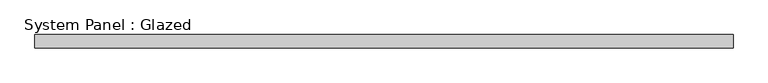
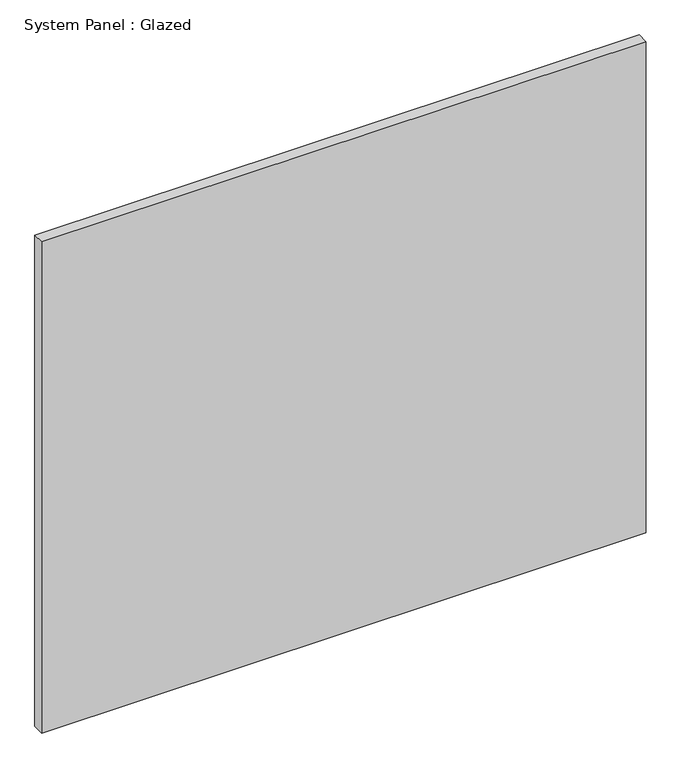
"""IFC4 building model written with IfcOpenShell, lengths in millimetres: plate geometry, System Panel : Glazed."""

import ifcopenshell
import ifcopenshell.guid

model = None  # the IFC model being written
_history = None  # IfcOwnerHistory: only IFC2X3 demands one
_inside = {}  # id of a spatial element -> (the spatial element, [elements in it])
_under = {}  # id of a project, library or spatial element -> (it, [spatial elements below it])
_declared = {}  # id of a project -> (the project, [libraries it declares])
_typed = {}  # id of a type object -> (the type object, [elements of that type])
_made_of = {}  # id of a material, layer set ... -> (it, [elements and type objects made of it])


def new_model(schema):
    """Start an empty IFC model of exactly this schema.

    Asked for "IFC4X3", IfcOpenShell would pick the latest addendum, in which some entities
    have other attributes; the version numbers below select the first issue.
    IFC2X3 requires an IfcOwnerHistory on every rooted entity: one is made here for all.
    """
    global model, _history
    if schema == "IFC4X3":
        model = ifcopenshell.file(schema_version=(4, 3, 0, 0))
    else:
        model = ifcopenshell.file(schema=schema)
    _inside.clear()
    _under.clear()
    _declared.clear()
    _typed.clear()
    _made_of.clear()
    _history = None
    if model.schema == "IFC2X3":
        org = make("IfcOrganization", Name="unknown")
        user = make(
            "IfcPersonAndOrganization",
            ThePerson=make("IfcPerson", FamilyName="unknown"),
            TheOrganization=org,
        )
        app = make(
            "IfcApplication",
            ApplicationDeveloper=org,
            Version="unknown",
            ApplicationFullName="unknown",
            ApplicationIdentifier="unknown",
        )
        _history = make(
            "IfcOwnerHistory",
            OwningUser=user,
            OwningApplication=app,
            ChangeAction="ADDED",
            CreationDate=0,
        )
    return model


def make(cls, **values):
    """One entity of the class cls with the attributes given. An attribute that is None is left unset."""
    return model.create_entity(
        cls, **{name: value for name, value in values.items() if value is not None}
    )


def rooted(cls, **values):
    """An entity with a GlobalId (a new one), such as an element, a storey or a relation."""
    return make(cls, GlobalId=ifcopenshell.guid.new(), OwnerHistory=_history, **values)


def si_unit(unit_type, name, prefix=None):
    """IfcSIUnit, for example si_unit("LENGTHUNIT", "METRE", prefix="MILLI")."""
    return make("IfcSIUnit", UnitType=unit_type, Prefix=prefix, Name=name)


def assignment(units):
    """IfcUnitAssignment: the units of a project."""
    return None if units is None else make("IfcUnitAssignment", Units=units)


def point(xyz):
    """IfcCartesianPoint."""
    return None if xyz is None else make("IfcCartesianPoint", Coordinates=xyz)


def direction(xyz):
    """IfcDirection."""
    return None if xyz is None else make("IfcDirection", DirectionRatios=xyz)


def frame(location, z_axis=None, x_axis=None):
    """IfcAxis2Placement3D, a coordinate frame: its origin and axes. An axis left out is left unset."""
    return make(
        "IfcAxis2Placement3D",
        Location=point(location),
        Axis=direction(z_axis),
        RefDirection=direction(x_axis),
    )


def origin():
    """The frame at (0, 0, 0) with its axes left unset."""
    return frame((0.0, 0.0, 0.0))


def origin_with_axes():
    """The frame at (0, 0, 0) with the z axis (0, 0, 1) and the x axis (1, 0, 0) written out."""
    return frame((0.0, 0.0, 0.0), z_axis=(0.0, 0.0, 1.0), x_axis=(1.0, 0.0, 0.0))


def place(relative_to, where):
    """IfcLocalPlacement: puts the frame where relative to a parent placement (None: the world)."""
    return make(
        "IfcLocalPlacement", PlacementRelTo=relative_to, RelativePlacement=where
    )


def context(
    kind, dimensions, precision=None, world=None, true_north=None, identifier=None
):
    """IfcGeometricRepresentationContext, for example the 3D "Model" context."""
    return make(
        "IfcGeometricRepresentationContext",
        ContextIdentifier=identifier,
        ContextType=kind,
        CoordinateSpaceDimension=dimensions,
        Precision=precision,
        WorldCoordinateSystem=world,
        TrueNorth=true_north,
    )


def project(units=None, contexts=None):
    """IfcProject with its units and contexts."""
    return rooted(
        "IfcProject",
        Name="project",
        RepresentationContexts=contexts,
        UnitsInContext=assignment(units),
    )


def spatial(cls, under=None, at=None, **own):
    """A site, building, storey or space (cls), placed at a placement, below another one or the project."""
    s = rooted(cls, ObjectPlacement=at, **own)
    if under is not None:
        _under.setdefault(under.id(), (under, []))[1].append(s)
    return s


def polyline(points):
    """IfcPolyline through the points."""
    return make("IfcPolyline", Points=[point(p) for p in points])


def outline(outer, holes=None, kind="AREA"):
    """IfcArbitraryClosedProfileDef: a profile drawn as a closed curve; with holes, ...WithVoids."""
    if holes is None:
        return make("IfcArbitraryClosedProfileDef", ProfileType=kind, OuterCurve=outer)
    return make(
        "IfcArbitraryProfileDefWithVoids",
        ProfileType=kind,
        OuterCurve=outer,
        InnerCurves=holes,
    )


def extrude(swept, where, along, depth):
    """IfcExtrudedAreaSolid: the profile swept, set in the frame where, extruded along a direction by depth."""
    return make(
        "IfcExtrudedAreaSolid",
        SweptArea=swept,
        Position=where,
        ExtrudedDirection=direction(along),
        Depth=depth,
    )


def shape(context_of_items, identifier, shape_type, items):
    """IfcShapeRepresentation: the items that make up one representation, for example the "Body"."""
    return make(
        "IfcShapeRepresentation",
        ContextOfItems=context_of_items,
        RepresentationIdentifier=identifier,
        RepresentationType=shape_type,
        Items=items,
    )


def source(mapping_origin, context_of_items, identifier, shape_type, items):
    """IfcRepresentationMap: a shape defined once, which mapped items show again and again."""
    return make(
        "IfcRepresentationMap",
        MappingOrigin=mapping_origin,
        MappedRepresentation=shape(context_of_items, identifier, shape_type, items),
    )


def transform(
    local_origin,
    x_axis=None,
    y_axis=None,
    z_axis=None,
    scale=None,
    scale2=None,
    scale3=None,
    uniform=True,
):
    """IfcCartesianTransformationOperator3D, or its non-uniform kind. x_axis, y_axis, z_axis: its Axis1, 2, 3."""
    if uniform:
        return make(
            "IfcCartesianTransformationOperator3D",
            Axis1=direction(x_axis),
            Axis2=direction(y_axis),
            LocalOrigin=point(local_origin),
            Scale=scale,
            Axis3=direction(z_axis),
        )
    return make(
        "IfcCartesianTransformationOperator3DnonUniform",
        Axis1=direction(x_axis),
        Axis2=direction(y_axis),
        LocalOrigin=point(local_origin),
        Scale=scale,
        Axis3=direction(z_axis),
        Scale2=scale2,
        Scale3=scale3,
    )


def mapped(mapping_source, mapping_target):
    """IfcMappedItem: shows the shape of a source again, moved by a transform."""
    return make(
        "IfcMappedItem", MappingSource=mapping_source, MappingTarget=mapping_target
    )


def made_of(thing, what):
    """Note that an element or type object is made of a material, layer set ...; save() writes the relation."""
    if what is not None:
        _made_of.setdefault(what.id(), (what, []))[1].append(thing)
    return thing


def element(
    cls,
    number,
    at=None,
    inside=None,
    cuts=None,
    type_object=None,
    material=None,
    context=None,
    identifier="Body",
    shape_type=None,
    held_by="IfcProductDefinitionShape",
    body=None,
    shapes=None,
    **own,
):
    """One element of the class cls, such as IfcWall. Its Tag is "e" and its number.

    at: its placement. inside: the storey or other place that contains it. cuts: it is an
    opening in that element (IfcRelVoidsElement). A single representation is given by context,
    identifier, shape_type and body (its items); several are given by shapes. held_by: the class
    of the entity that holds the representations. save() writes the other relations.
    """
    e = rooted(cls, Tag="e%d" % number, ObjectPlacement=at, **own)
    if body is not None:
        shapes = [shape(context, identifier, shape_type, body)]
    if shapes is not None:
        e.Representation = make(held_by, Representations=shapes)
    if inside is not None:
        _inside.setdefault(inside.id(), (inside, []))[1].append(e)
    if cuts is not None:
        rooted(
            "IfcRelVoidsElement", RelatingBuildingElement=cuts, RelatedOpeningElement=e
        )
    if type_object is not None:
        _typed.setdefault(type_object.id(), (type_object, []))[1].append(e)
    return made_of(e, material)


def aggregate(whole, parts):
    """IfcRelAggregates: a whole, such as a stair, and the parts it consists of."""
    return rooted("IfcRelAggregates", RelatingObject=whole, RelatedObjects=parts)


def save(model, path):
    """Write the relations noted so far, then the file.

    IfcRelAggregates (storeys below a building ...), IfcRelContainedInSpatialStructure (elements
    in a storey), IfcRelDefinesByType, IfcRelAssociatesMaterial and IfcRelDeclares: one each for
    every whole, place, type object, material and project.
    """
    for whole, parts in _under.values():
        aggregate(whole, parts)
    for where, things in _inside.values():
        rooted(
            "IfcRelContainedInSpatialStructure",
            RelatedElements=things,
            RelatingStructure=where,
        )
    for kind, things in _typed.values():
        rooted("IfcRelDefinesByType", RelatedObjects=things, RelatingType=kind)
    for what, things in _made_of.values():
        rooted("IfcRelAssociatesMaterial", RelatedObjects=things, RelatingMaterial=what)
    for by, libraries in _declared.values():
        rooted("IfcRelDeclares", RelatingContext=by, RelatedDefinitions=libraries)
    model.write(path)


def system_panel_glazed_95743b0c(model_context):
    return source(origin(), model_context, "Body", "SweptSolid", [
        extrude(outline(polyline([(655.0000001, 24.5), (-655.0000001, 24.5), (-655.0000001, 49.5), (655.0000001, 49.5), (655.0000001, 24.5)])), origin_with_axes(), (0.0, 0.0, 1.0), 1125.0),
    ])


if __name__ == "__main__":
    model = new_model("IFC4")
    model_context = context("Model", 3, world=origin())
    ifc_project = project(units=[si_unit("LENGTHUNIT", "METRE", prefix="MILLI")], contexts=[model_context])
    site = spatial("IfcSite", under=ifc_project)
    building = spatial("IfcBuilding", under=site)
    placement = place(None, origin())
    system_panel_glazed_shape = system_panel_glazed_95743b0c(model_context)
    element("IfcPlate", 1, ObjectType="System Panel : Glazed", at=placement, inside=building, context=model_context, shape_type="MappedRepresentation", body=[
        mapped(system_panel_glazed_shape, transform((0.0, 0.0, 0.0), x_axis=(1.0, 0.0, 0.0), y_axis=(0.0, 1.0, 0.0), z_axis=(0.0, 0.0, 1.0))),
    ])
    save(model, "model.ifc")
